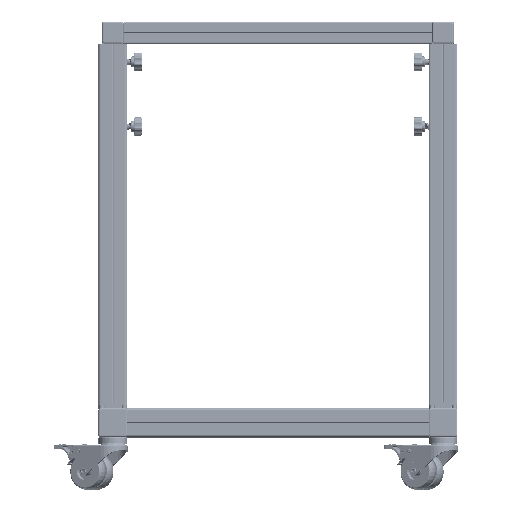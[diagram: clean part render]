
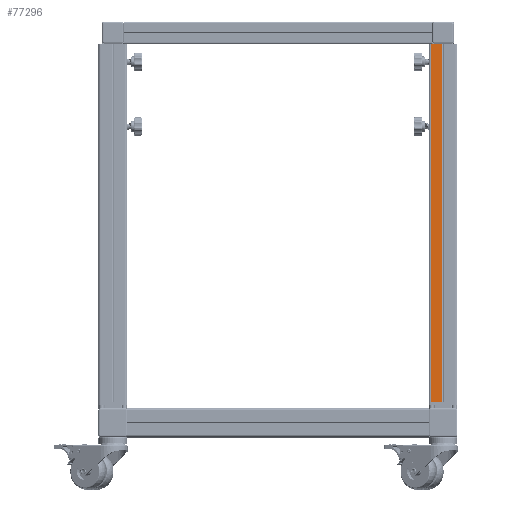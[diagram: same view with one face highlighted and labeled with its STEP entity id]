
A CAD part, top view. The second image highlights one B-rep face of the part: STEP entity #77296.
In plain terms, the highlighted planar face has unit normal (0, 0, 1) as drawn and (0, 1, 0) by its records, which use the part's own axes.
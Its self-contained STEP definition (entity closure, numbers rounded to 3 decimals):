
#4104 = CARTESIAN_POINT ( 'NONE',  ( -0.702, 18.991, -250. ) ) ;
#14978 = DIRECTION ( 'NONE',  ( 0., -1., 0. ) ) ;
#16093 = ORIENTED_EDGE ( 'NONE', *, *, #113119, .F. ) ;
#24399 = ORIENTED_EDGE ( 'NONE', *, *, #64256, .T. ) ;
#25483 = CARTESIAN_POINT ( 'NONE',  ( -16.622, 18.991, 250. ) ) ;
#28902 = LINE ( 'NONE', #4104, #135881 ) ;
#40964 = LINE ( 'NONE', #130011, #96610 ) ;
#49170 = CARTESIAN_POINT ( 'NONE',  ( -0.702, 18.991, -250. ) ) ;
#53088 = ORIENTED_EDGE ( 'NONE', *, *, #94378, .F. ) ;
#64256 = EDGE_CURVE ( 'NONE', #131477, #71956, #155573, .T. ) ;
#65685 = CARTESIAN_POINT ( 'NONE',  ( -0.702, 18.991, 250. ) ) ;
#68292 = DIRECTION ( 'NONE',  ( 0., 0., -1. ) ) ;
#71956 = VERTEX_POINT ( 'NONE', #49170 ) ;
#77296 = ADVANCED_FACE ( 'NONE', ( #132212 ), #142542, .F. ) ;
#86952 = VERTEX_POINT ( 'NONE', #133800 ) ;
#90026 = DIRECTION ( 'NONE',  ( -1., 0., 0. ) ) ;
#92319 = VERTEX_POINT ( 'NONE', #25483 ) ;
#94378 = EDGE_CURVE ( 'NONE', #131477, #92319, #103748, .T. ) ;
#96610 = VECTOR ( 'NONE', #68292, 1000. ) ;
#97417 = VECTOR ( 'NONE', #90026, 1000. ) ;
#101168 = VECTOR ( 'NONE', #105135, 1000. ) ;
#103748 = LINE ( 'NONE', #143895, #97417 ) ;
#105135 = DIRECTION ( 'NONE',  ( 0., 0., -1. ) ) ;
#109404 = DIRECTION ( 'NONE',  ( -1., 0., 0. ) ) ;
#113119 = EDGE_CURVE ( 'NONE', #92319, #86952, #40964, .T. ) ;
#130011 = CARTESIAN_POINT ( 'NONE',  ( -16.622, 18.991, 250. ) ) ;
#131477 = VERTEX_POINT ( 'NONE', #155799 ) ;
#132212 = FACE_OUTER_BOUND ( 'NONE', #132869, .T. ) ;
#132869 = EDGE_LOOP ( 'NONE', ( #158479, #16093, #53088, #24399 ) ) ;
#133067 = DIRECTION ( 'NONE',  ( 0., 0., -1. ) ) ;
#133800 = CARTESIAN_POINT ( 'NONE',  ( -16.622, 18.991, -250. ) ) ;
#135881 = VECTOR ( 'NONE', #109404, 1000. ) ;
#142542 = PLANE ( 'NONE',  #146361 ) ;
#143895 = CARTESIAN_POINT ( 'NONE',  ( -0.702, 18.991, 250. ) ) ;
#146361 = AXIS2_PLACEMENT_3D ( 'NONE', #169074, #14978, #133067 ) ;
#155573 = LINE ( 'NONE', #65685, #101168 ) ;
#155799 = CARTESIAN_POINT ( 'NONE',  ( -0.702, 18.991, 250. ) ) ;
#158479 = ORIENTED_EDGE ( 'NONE', *, *, #163030, .T. ) ;
#163030 = EDGE_CURVE ( 'NONE', #71956, #86952, #28902, .T. ) ;
#169074 = CARTESIAN_POINT ( 'NONE',  ( -0.702, 18.991, 250. ) ) ;
